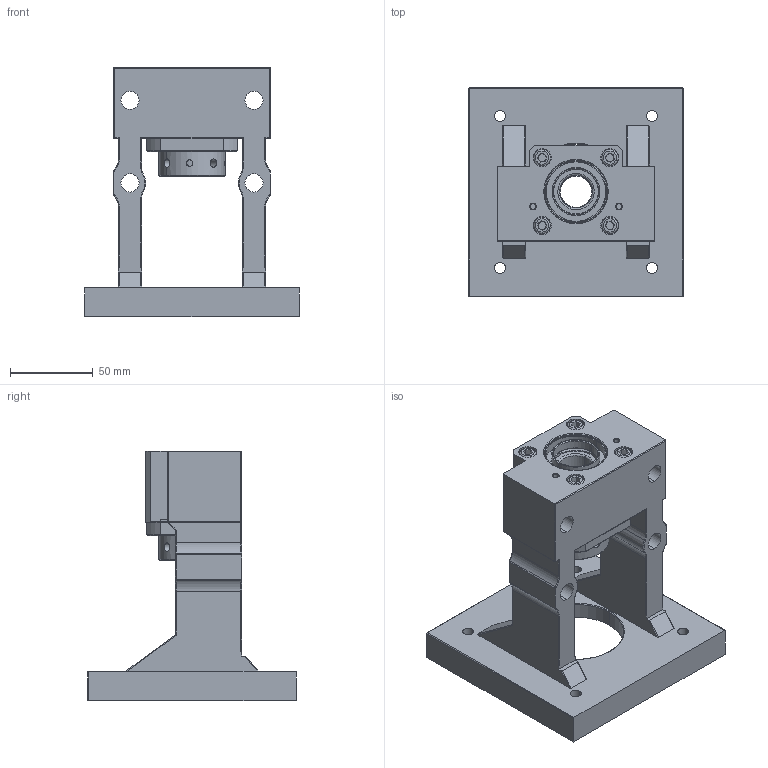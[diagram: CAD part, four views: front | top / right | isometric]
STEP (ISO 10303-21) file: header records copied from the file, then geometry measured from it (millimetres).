
FILE_DESCRIPTION (( 'STEP AP203' ), '1' );
FILE_NAME ('MBCS20-S.STEP', '2017-12-28T07:53:13', ( '' ), ( '' ), 'SwSTEP 2.0', 'SolidWorks 2017', '' );
FILE_SCHEMA (( 'CONFIG_CONTROL_DESIGN' ));
Length unit declared in the file: millimetre
Products named in the file (1): MBCS20-S
Bounding box: 130 x 126 x 151 mm (x, y, z)
Surface area: 104849.7 mm2 (no closed solid volume)
Topology: 0 solids, 18 shells, 357 faces, 922 edges, 582 vertices
Faces by surface type: cylinder 158, plane 99, torus 50, cone 44, sphere 6
Entity records: 11648 total; most frequent: CARTESIAN_POINT 2812, DIRECTION 1950, ORIENTED_EDGE 1692, EDGE_CURVE 910, AXIS2_PLACEMENT_3D 768, VERTEX_POINT 576, EDGE_LOOP 424, VECTOR 414
